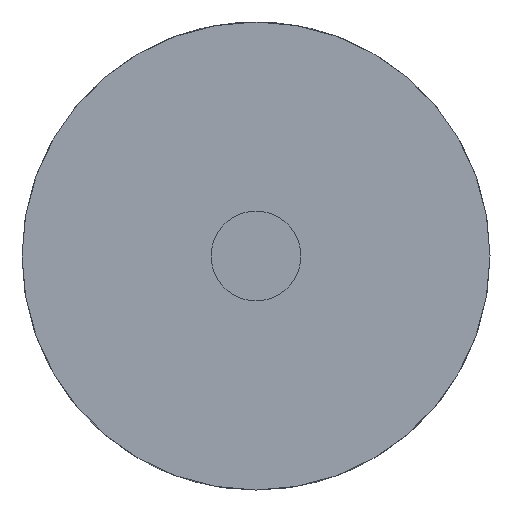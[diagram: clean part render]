
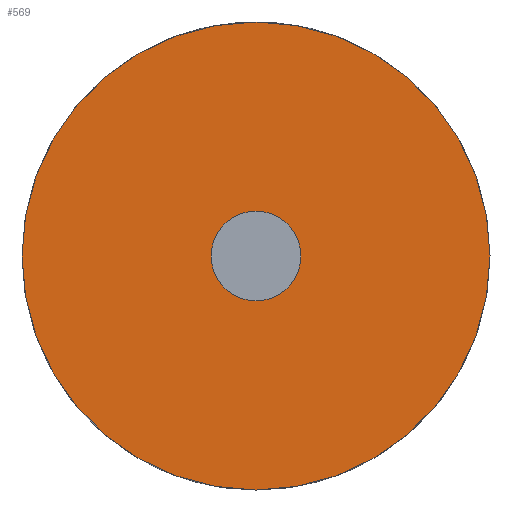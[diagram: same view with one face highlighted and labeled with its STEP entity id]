
A CAD part, front view. The second image highlights one B-rep face of the part: STEP entity #569.
In plain terms, the highlighted planar face has unit normal (0, -1, 0).
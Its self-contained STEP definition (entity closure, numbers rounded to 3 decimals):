
#208=CARTESIAN_POINT('',(0.,0.,0.));
#209=DIRECTION('',(0.,1.,0.));
#210=DIRECTION('',(1.,0.,0.));
#211=AXIS2_PLACEMENT_3D('',#208,#209,#210);
#213=CARTESIAN_POINT('',(0.,0.,0.));
#214=DIRECTION('',(0.,1.,0.));
#215=DIRECTION('',(-1.,0.,0.));
#216=AXIS2_PLACEMENT_3D('',#213,#214,#215);
#218=CARTESIAN_POINT('',(0.,0.,0.));
#219=DIRECTION('',(0.,-1.,0.));
#220=DIRECTION('',(-1.,0.,0.));
#221=AXIS2_PLACEMENT_3D('',#218,#219,#220);
#223=CARTESIAN_POINT('',(0.,0.,0.));
#224=DIRECTION('',(0.,-1.,0.));
#225=DIRECTION('',(1.,0.,0.));
#226=AXIS2_PLACEMENT_3D('',#223,#224,#225);
#246=CARTESIAN_POINT('',(6.,0.,0.));
#247=CARTESIAN_POINT('',(-6.,0.,0.));
#248=VERTEX_POINT('',#246);
#249=VERTEX_POINT('',#247);
#254=CARTESIAN_POINT('',(-1.15,0.,0.));
#255=CARTESIAN_POINT('',(1.15,0.,0.));
#256=VERTEX_POINT('',#254);
#257=VERTEX_POINT('',#255);
#554=CARTESIAN_POINT('',(0.,0.,0.));
#555=DIRECTION('',(0.,1.,0.));
#556=DIRECTION('',(1.,0.,0.));
#557=AXIS2_PLACEMENT_3D('',#554,#555,#556);
#558=PLANE('',#557);
#559=ORIENTED_EDGE('',*,*,#434,.T.);
#560=ORIENTED_EDGE('',*,*,#472,.T.);
#561=EDGE_LOOP('',(#559,#560));
#562=FACE_OUTER_BOUND('',#561,.F.);
#564=ORIENTED_EDGE('',*,*,#563,.T.);
#566=ORIENTED_EDGE('',*,*,#565,.T.);
#567=EDGE_LOOP('',(#564,#566));
#568=FACE_BOUND('',#567,.F.);
#569=ADVANCED_FACE('',(#562,#568),#558,.F.);
#212=CIRCLE('',#211,6.);
#217=CIRCLE('',#216,6.);
#222=CIRCLE('',#221,1.15);
#227=CIRCLE('',#226,1.15);
#434=EDGE_CURVE('',#248,#249,#212,.T.);
#472=EDGE_CURVE('',#249,#248,#217,.T.);
#563=EDGE_CURVE('',#256,#257,#222,.T.);
#565=EDGE_CURVE('',#257,#256,#227,.T.);
